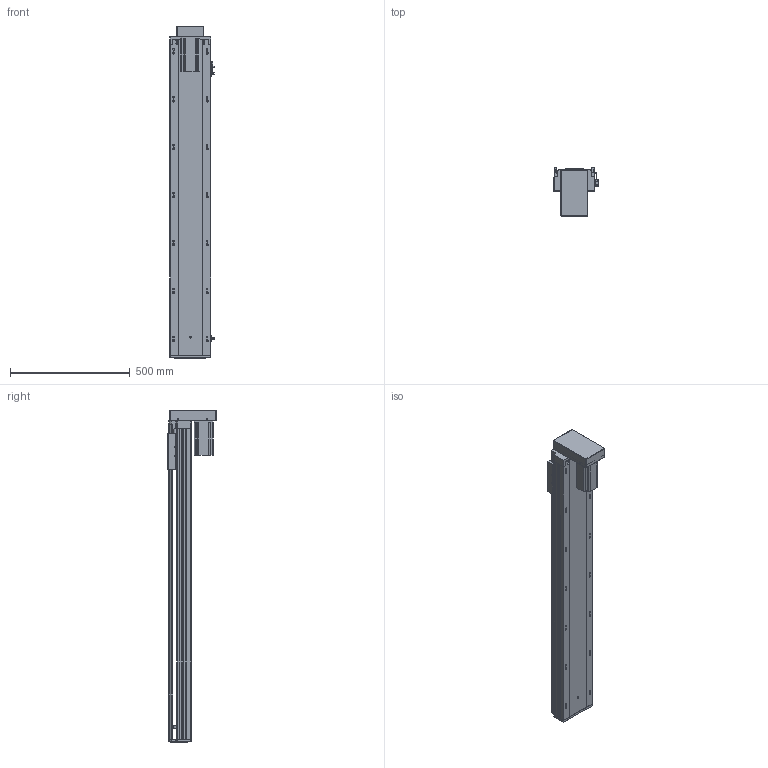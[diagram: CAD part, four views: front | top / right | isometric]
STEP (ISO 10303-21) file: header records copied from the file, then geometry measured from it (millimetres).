
FILE_DESCRIPTION (( 'STEP AP203' ), '1' );
FILE_NAME ('RY170-L2510-1400-BK.SLDASM_1050.step', '2021-03-12T09:25:53', ( '盈信电脑' ), ( '东莞市道滘镇水果街19号' ), 'SwSTEP 2.0', 'SolidWorks 2012', '' );
FILE_SCHEMA (( 'CONFIG_CONTROL_DESIGN' ));
Length unit declared in the file: millimetre
Products named in the file (14): 滅袉蝶18-15; RY170-L2510-1400-BK.SLDASM_1050; RY170-狟殏750W萇儂傷; 怢湛750W萇儂ㄗ80遺ㄘ; RY170转折电机端支撑座(7004); 滅袉蝶18-20; RY170-狟殏萇儂假蚾啣; RY170狟殏萇儂欶; 覜茼ん672; RY170-1400倰第裔啣-BK_1050; RY170綴裔啣; RY170外置感应片(200共用）; RY170-1400倰第菁釱-BK_1050; 改造-RY170铝滑块25丝杆螺母
Assembly tree (15 placements, depth 3):
  RY170-L2510-1400-BK.SLDASM_1050
    RY170-1400倰第菁釱-BK_1050
    改造-RY170铝滑块25丝杆螺母
    RY170-1400倰第裔啣-BK_1050
    RY170綴裔啣
    覜茼ん672  x3
    RY170外置感应片(200共用）
    滅袉蝶18-20
    RY170转折电机端支撑座(7004)
    RY170-狟殏750W萇儂傷
      RY170-狟殏萇儂假蚾啣
      RY170狟殏萇儂欶
      怢湛750W萇儂ㄗ80遺ㄘ
    滅袉蝶18-15
Bounding box: 183.7 x 200.8 x 1384.5 mm (x, y, z)
Volume: 7532910 mm3; surface area: 2353898.5 mm2
Topology: 14 solids, 14 shells, 2174 faces, 6221 edges, 3984 vertices
Faces by surface type: plane 1082, cylinder 883, cone 190, bspline 19
Entity records: 70018 total; most frequent: CARTESIAN_POINT 16721, ORIENTED_EDGE 11154, DIRECTION 10349, EDGE_CURVE 5577, VERTEX_POINT 3664, VECTOR 3465, LINE 3465, AXIS2_PLACEMENT_3D 3442
